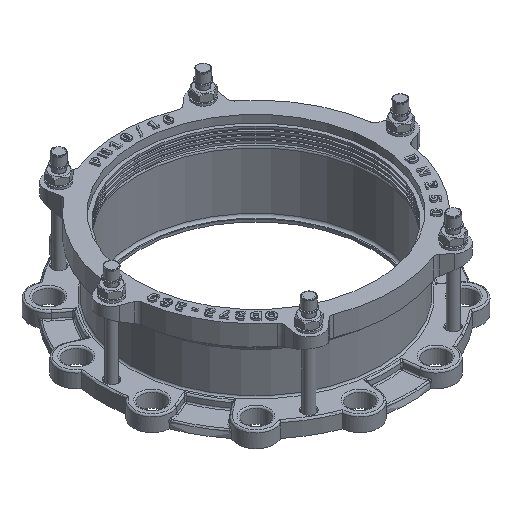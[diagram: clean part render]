
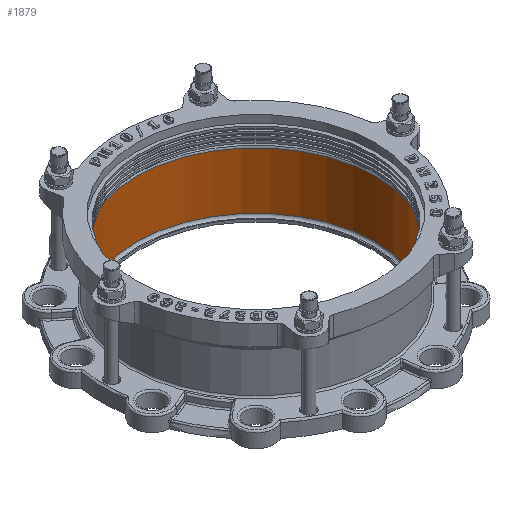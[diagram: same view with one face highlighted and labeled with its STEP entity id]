
A CAD part, isometric view. The second image highlights one B-rep face of the part: STEP entity #1879.
In plain terms, the highlighted cylindrical face has radius 144.5 mm (diameter 289 mm), a full revolution.
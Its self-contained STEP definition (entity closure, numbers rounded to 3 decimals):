
#1879=ADVANCED_FACE('',(#12962,#12964),#12966,.F.);
#12962=FACE_OUTER_BOUND('',#12963,.T.);
#12963=EDGE_LOOP('',(#19198));
#12964=FACE_OUTER_BOUND('',#12965,.T.);
#12965=EDGE_LOOP('',(#19199));
#12966=CYLINDRICAL_SURFACE('',#12967,144.5);
#12967=AXIS2_PLACEMENT_3D('',#12968,#12969,#12970);
#12968=CARTESIAN_POINT('',(0.,0.,3.));
#12969=DIRECTION('',(0.,0.,1.));
#12970=DIRECTION('',(-1.,0.,0.));
#19198=ORIENTED_EDGE('',*,*,#24370,.F.);
#19199=ORIENTED_EDGE('',*,*,#24372,.T.);
#24370=EDGE_CURVE('',#27549,#27549,#27550,.T.);
#24372=EDGE_CURVE('',#27553,#27553,#27554,.F.);
#27549=VERTEX_POINT('',#38889);
#27550=CIRCLE('',#38890,144.5);
#27553=VERTEX_POINT('',#38899);
#27554=CIRCLE('',#38900,144.5);
#38889=CARTESIAN_POINT('',(0.,144.5,74.5));
#38890=AXIS2_PLACEMENT_3D('',#38891,#38892,#38893);
#38891=CARTESIAN_POINT('',(0.,0.,74.5));
#38892=DIRECTION('',(0.,0.,-1.));
#38893=DIRECTION('',(0.,1.,0.));
#38899=CARTESIAN_POINT('',(0.,144.5,6.));
#38900=AXIS2_PLACEMENT_3D('',#38901,#38902,#38903);
#38901=CARTESIAN_POINT('',(0.,0.,6.));
#38902=DIRECTION('',(0.,0.,1.));
#38903=DIRECTION('',(0.,1.,0.));
